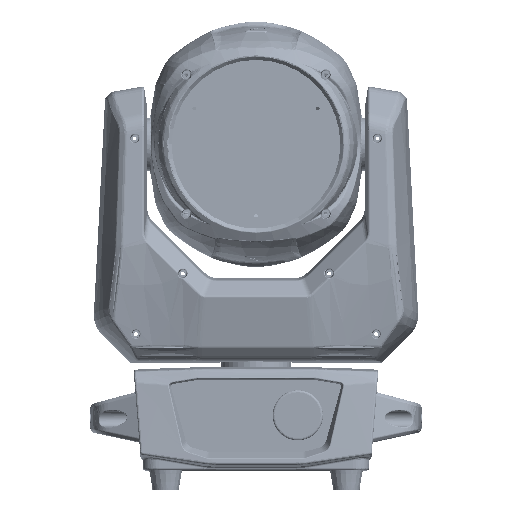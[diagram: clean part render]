
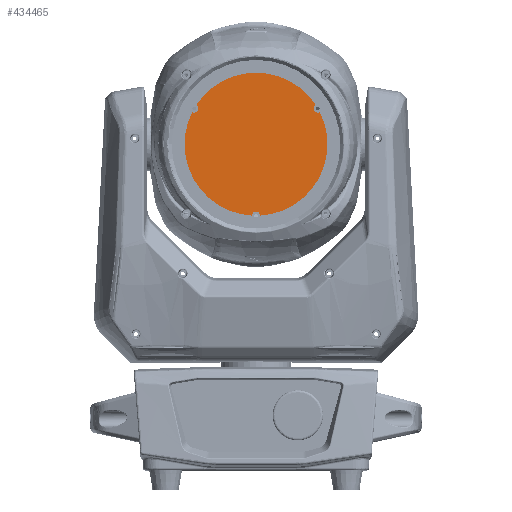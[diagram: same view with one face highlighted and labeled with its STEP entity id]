
A CAD part, top view. The second image highlights one B-rep face of the part: STEP entity #434465.
In plain terms, the highlighted planar face has unit normal (0, 0, 1).
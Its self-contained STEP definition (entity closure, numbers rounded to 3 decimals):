
#434386=CARTESIAN_POINT('',(0.012,282.,62.3));
#434387=DIRECTION('',(0.,0.,1.));
#434388=DIRECTION('',(0.,-1.,0.));
#434389=AXIS2_PLACEMENT_3D('',#434386,#434387,#434388);
#434390=PLANE('',#434389);
#434391=CARTESIAN_POINT('',(54.139,309.65,62.3));
#434392=VERTEX_POINT('',#434391);
#434393=CARTESIAN_POINT('',(55.848,310.082,62.3));
#434394=VERTEX_POINT('',#434393);
#434395=CARTESIAN_POINT('',(54.139,313.25,62.3));
#434396=DIRECTION('',(0.,0.,1.));
#434397=DIRECTION('',(0.,-1.,0.));
#434398=AXIS2_PLACEMENT_3D('',#434395,#434396,#434397);
#434399=CIRCLE('',#434398,3.6);
#434400=EDGE_CURVE('',#434392,#434394,#434399,.T.);
#434401=ORIENTED_EDGE('',*,*,#434400,.F.);
#434402=CARTESIAN_POINT('',(52.25,316.315,62.3));
#434403=VERTEX_POINT('',#434402);
#434404=CARTESIAN_POINT('',(54.139,313.25,62.3));
#434405=DIRECTION('',(0.,0.,1.));
#434406=DIRECTION('',(0.,-1.,0.));
#434407=AXIS2_PLACEMENT_3D('',#434404,#434405,#434406);
#434408=CIRCLE('',#434407,3.6);
#434409=EDGE_CURVE('',#434403,#434392,#434408,.T.);
#434410=ORIENTED_EDGE('',*,*,#434409,.F.);
#434411=CARTESIAN_POINT('',(-52.225,316.315,62.3));
#434412=VERTEX_POINT('',#434411);
#434413=CARTESIAN_POINT('',(0.012,282.,62.3));
#434414=DIRECTION('',(0.,0.,1.));
#434415=DIRECTION('',(0.,-1.,0.));
#434416=AXIS2_PLACEMENT_3D('',#434413,#434414,#434415);
#434417=CIRCLE('',#434416,62.5);
#434418=EDGE_CURVE('',#434403,#434412,#434417,.T.);
#434419=ORIENTED_EDGE('',*,*,#434418,.T.);
#434420=CARTESIAN_POINT('',(-54.114,309.65,62.3));
#434421=VERTEX_POINT('',#434420);
#434422=CARTESIAN_POINT('',(-54.114,313.25,62.3));
#434423=DIRECTION('',(0.,0.,1.));
#434424=DIRECTION('',(0.,-1.,0.));
#434425=AXIS2_PLACEMENT_3D('',#434422,#434423,#434424);
#434426=CIRCLE('',#434425,3.6);
#434427=EDGE_CURVE('',#434421,#434412,#434426,.T.);
#434428=ORIENTED_EDGE('',*,*,#434427,.F.);
#434429=CARTESIAN_POINT('',(-55.824,310.082,62.3));
#434430=VERTEX_POINT('',#434429);
#434431=CARTESIAN_POINT('',(-54.114,313.25,62.3));
#434432=DIRECTION('',(0.,0.,1.));
#434433=DIRECTION('',(0.,-1.,0.));
#434434=AXIS2_PLACEMENT_3D('',#434431,#434432,#434433);
#434435=CIRCLE('',#434434,3.6);
#434436=EDGE_CURVE('',#434430,#434421,#434435,.T.);
#434437=ORIENTED_EDGE('',*,*,#434436,.F.);
#434438=CARTESIAN_POINT('',(-3.586,219.604,62.3));
#434439=VERTEX_POINT('',#434438);
#434440=CARTESIAN_POINT('',(0.012,282.,62.3));
#434441=DIRECTION('',(0.,0.,1.));
#434442=DIRECTION('',(0.,-1.,0.));
#434443=AXIS2_PLACEMENT_3D('',#434440,#434441,#434442);
#434444=CIRCLE('',#434443,62.5);
#434445=EDGE_CURVE('',#434430,#434439,#434444,.T.);
#434446=ORIENTED_EDGE('',*,*,#434445,.T.);
#434447=CARTESIAN_POINT('',(3.611,219.604,62.3));
#434448=VERTEX_POINT('',#434447);
#434449=CARTESIAN_POINT('',(0.012,219.5,62.3));
#434450=DIRECTION('',(0.,0.,1.));
#434451=DIRECTION('',(0.,-1.,0.));
#434452=AXIS2_PLACEMENT_3D('',#434449,#434450,#434451);
#434453=CIRCLE('',#434452,3.6);
#434454=EDGE_CURVE('',#434448,#434439,#434453,.T.);
#434455=ORIENTED_EDGE('',*,*,#434454,.F.);
#434456=CARTESIAN_POINT('',(0.012,282.,62.3));
#434457=DIRECTION('',(0.,0.,1.));
#434458=DIRECTION('',(0.,-1.,0.));
#434459=AXIS2_PLACEMENT_3D('',#434456,#434457,#434458);
#434460=CIRCLE('',#434459,62.5);
#434461=EDGE_CURVE('',#434448,#434394,#434460,.T.);
#434462=ORIENTED_EDGE('',*,*,#434461,.T.);
#434463=EDGE_LOOP('',(#434401,#434410,#434419,#434428,#434437,#434446,#434455,#434462));
#434464=FACE_BOUND('',#434463,.T.);
#434465=ADVANCED_FACE('',(#434464),#434390,.T.);
